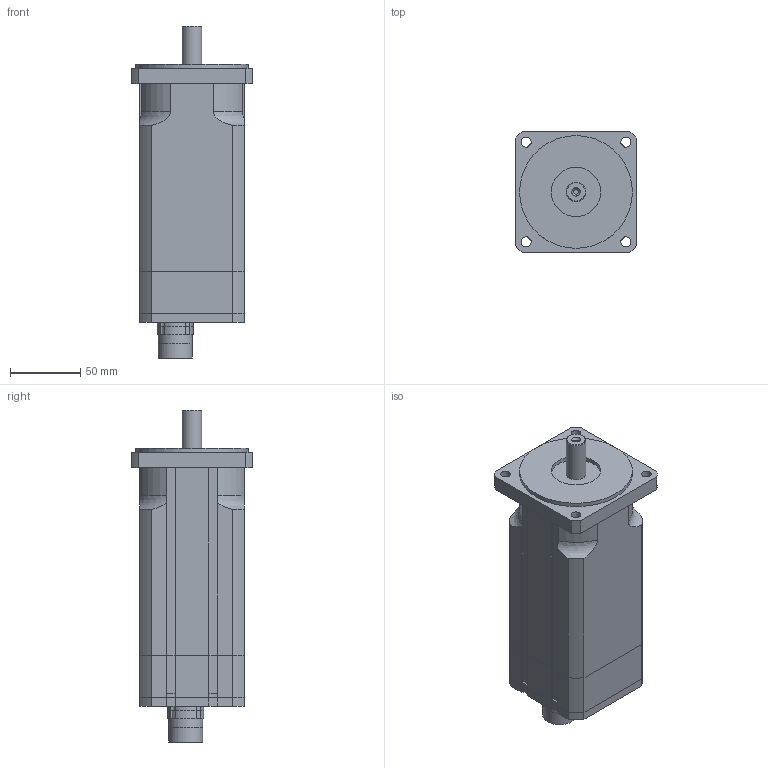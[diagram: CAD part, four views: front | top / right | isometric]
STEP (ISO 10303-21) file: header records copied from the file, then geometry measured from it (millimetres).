
FILE_DESCRIPTION(/* description */ ('Alibre Inc.'),/* implementation_level */ '2;1');
FILE_NAME(/* name */ 'export0',/* time_stamp */ '2011-09-09T08:32:18+02:00',/* author */ (''),/* organization */ (''),/* preprocessor_version */ 'ST-DEVELOPER v12',/* originating_system */ 'Alibre',/* authorisation */ '');
FILE_SCHEMA (('ALIBRE_SCHEMA','CONFIG_CONTROL_DESIGN'));
Length unit declared in the file: millimetre
Products named in the file (5): ID_1
Bounding box: 86 x 86 x 235.5 mm (x, y, z)
Volume: 1146786.4 mm3; surface area: 100098.4 mm2
Topology: 4 solids, 4 shells, 165 faces, 427 edges, 277 vertices
Faces by surface type: plane 80, cylinder 55, bspline 25, torus 4, cone 1
Full cylindrical faces by diameter (mm): 2.7 x8, 14 x1, 20 x2, 24 x2, 35 x1, 80 x1
Entity records: 14630 total; most frequent: CARTESIAN_POINT 3435, DIRECTION 1729, ORIENTED_EDGE 1688, EDGE_CURVE 844, AXIS2_PLACEMENT_3D 674, VERTEX_POINT 582, VECTOR 542, LINE 506
